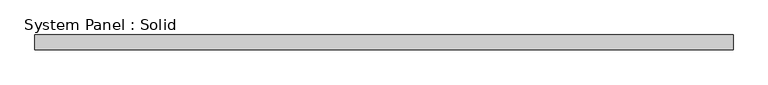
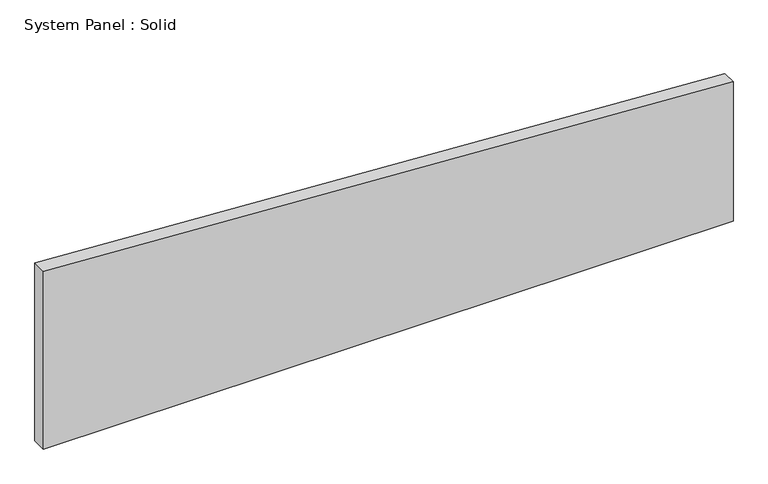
"""IFC4 building model written with IfcOpenShell, lengths in millimetres: plate geometry, System Panel : Solid."""

from ifc_helpers import new_model, si_unit, frame, origin, place, context, project, spatial, polyline, outline, extrude, source, transform, mapped, element, save


def system_panel_solid_124e7d94(model_context):
    return source(origin(), model_context, "Body", "SweptSolid", [
        extrude(outline(polyline([(0.0, -1492.25), (0.0, 1492.25), (636.851436, 1492.25), (813.6094234, -1492.25), (0.0, -1492.25)])), frame((0.0, -19.05, 0.0), z_axis=(0.0, 1.0, 0.0), x_axis=(0.0, 0.0, 1.0)), (0.0, 0.0, 1.0), 63.5),
    ])


if __name__ == "__main__":
    model = new_model("IFC4")
    model_context = context("Model", 3, world=origin())
    ifc_project = project(units=[si_unit("LENGTHUNIT", "METRE", prefix="MILLI")], contexts=[model_context])
    site = spatial("IfcSite", under=ifc_project)
    building = spatial("IfcBuilding", under=site)
    placement = place(None, origin())
    system_panel_solid_shape = system_panel_solid_124e7d94(model_context)
    element("IfcPlate", 1, ObjectType="System Panel : Solid", at=placement, inside=building, context=model_context, shape_type="MappedRepresentation", body=[
        mapped(system_panel_solid_shape, transform((0.0, 0.0, 0.0), x_axis=(1.0, 0.0, 0.0), y_axis=(0.0, 1.0, 0.0), z_axis=(0.0, 0.0, 1.0))),
    ])
    save(model, "model.ifc")
